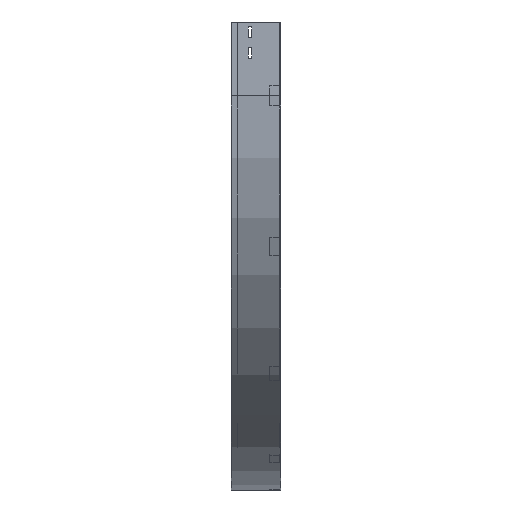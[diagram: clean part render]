
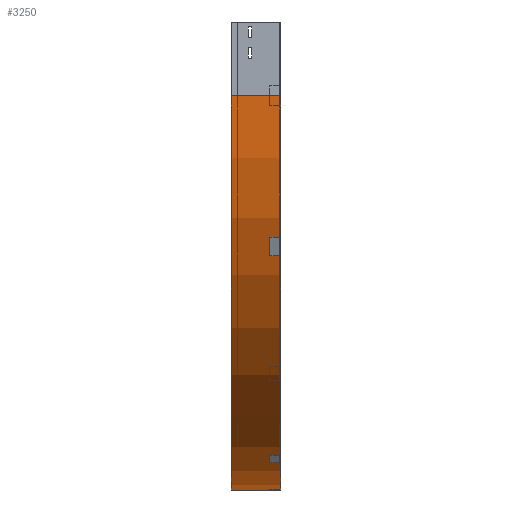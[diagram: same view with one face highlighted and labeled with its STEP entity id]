
A CAD part, left-side view. The second image highlights one B-rep face of the part: STEP entity #3250.
In plain terms, the highlighted cylindrical face has radius 800 mm (diameter 1600 mm), a partial arc.
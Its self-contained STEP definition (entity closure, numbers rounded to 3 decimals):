
#126 = EDGE_CURVE ( 'NONE', #1251, #1034, #3310, .T. ) ;
#233 = ORIENTED_EDGE ( 'NONE', *, *, #1910, .T. ) ;
#456 = CARTESIAN_POINT ( 'NONE',  ( 800., 100., -150. ) ) ;
#474 = LINE ( 'NONE', #2638, #2788 ) ;
#514 = DIRECTION ( 'NONE',  ( 0., -1., 0. ) ) ;
#558 = DIRECTION ( 'NONE',  ( 0., -1., 0. ) ) ;
#882 = VERTEX_POINT ( 'NONE', #1159 ) ;
#910 = DIRECTION ( 'NONE',  ( -1., 0., 0. ) ) ;
#1028 = DIRECTION ( 'NONE',  ( 0., -1., 0. ) ) ;
#1034 = VERTEX_POINT ( 'NONE', #1828 ) ;
#1062 = CARTESIAN_POINT ( 'NONE',  ( 800., 0., -950. ) ) ;
#1159 = CARTESIAN_POINT ( 'NONE',  ( 0., 0., -150. ) ) ;
#1167 = AXIS2_PLACEMENT_3D ( 'NONE', #2125, #1209, #910 ) ;
#1209 = DIRECTION ( 'NONE',  ( 0., -1., 0. ) ) ;
#1251 = VERTEX_POINT ( 'NONE', #1550 ) ;
#1323 = LINE ( 'NONE', #2830, #1788 ) ;
#1422 = FACE_OUTER_BOUND ( 'NONE', #2254, .T. ) ;
#1463 = ORIENTED_EDGE ( 'NONE', *, *, #1647, .F. ) ;
#1480 = EDGE_CURVE ( 'NONE', #1251, #882, #1323, .T. ) ;
#1550 = CARTESIAN_POINT ( 'NONE',  ( 0., 100., -150. ) ) ;
#1647 = EDGE_CURVE ( 'NONE', #882, #3751, #1909, .T. ) ;
#1732 = CARTESIAN_POINT ( 'NONE',  ( 800., 0., -150. ) ) ;
#1788 = VECTOR ( 'NONE', #1028, 1000. ) ;
#1828 = CARTESIAN_POINT ( 'NONE',  ( 800., 100., -950. ) ) ;
#1909 = CIRCLE ( 'NONE', #1167, 800. ) ;
#1910 = EDGE_CURVE ( 'NONE', #1034, #3751, #474, .T. ) ;
#2125 = CARTESIAN_POINT ( 'NONE',  ( 800., 0., -150. ) ) ;
#2254 = EDGE_LOOP ( 'NONE', ( #1463, #3774, #3064, #233 ) ) ;
#2276 = DIRECTION ( 'NONE',  ( -1., 0., 0. ) ) ;
#2638 = CARTESIAN_POINT ( 'NONE',  ( 800., 0., -950. ) ) ;
#2788 = VECTOR ( 'NONE', #2882, 1000. ) ;
#2802 = AXIS2_PLACEMENT_3D ( 'NONE', #1732, #558, #2942 ) ;
#2830 = CARTESIAN_POINT ( 'NONE',  ( 0., 0., -150. ) ) ;
#2882 = DIRECTION ( 'NONE',  ( 0., -1., 0. ) ) ;
#2942 = DIRECTION ( 'NONE',  ( 0., 0., -1. ) ) ;
#3064 = ORIENTED_EDGE ( 'NONE', *, *, #126, .T. ) ;
#3242 = AXIS2_PLACEMENT_3D ( 'NONE', #456, #514, #2276 ) ;
#3250 = ADVANCED_FACE ( 'NONE', ( #1422 ), #3502, .T. ) ;
#3310 = CIRCLE ( 'NONE', #3242, 800. ) ;
#3502 = CYLINDRICAL_SURFACE ( 'NONE', #2802, 800. ) ;
#3751 = VERTEX_POINT ( 'NONE', #1062 ) ;
#3774 = ORIENTED_EDGE ( 'NONE', *, *, #1480, .F. ) ;
